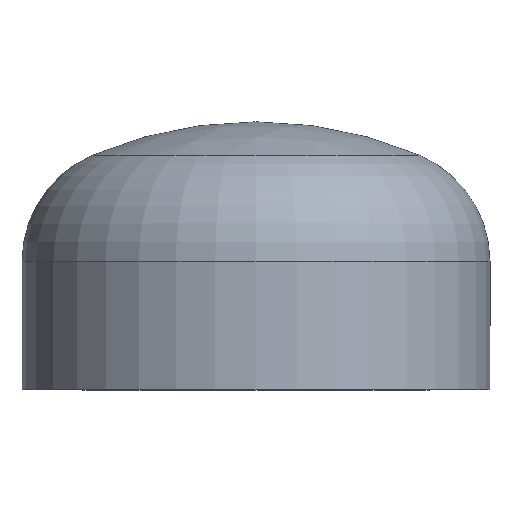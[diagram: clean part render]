
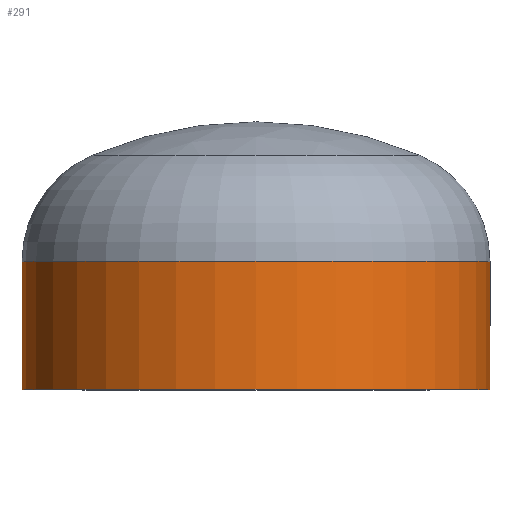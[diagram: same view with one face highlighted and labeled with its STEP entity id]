
A CAD part, top view. The second image highlights one B-rep face of the part: STEP entity #291.
In plain terms, the highlighted cylindrical face has radius 109.55 mm (diameter 219.1 mm), a partial arc.
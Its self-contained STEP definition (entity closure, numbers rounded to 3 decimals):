
#15 = VERTEX_POINT ( 'NONE', #371 ) ;
#17 = EDGE_LOOP ( 'NONE', ( #121, #133, #194, #79 ) ) ;
#22 = VECTOR ( 'NONE', #297, 1000. ) ;
#47 = LINE ( 'NONE', #376, #296 ) ;
#48 = AXIS2_PLACEMENT_3D ( 'NONE', #246, #269, #267 ) ;
#50 = VERTEX_POINT ( 'NONE', #233 ) ;
#79 = ORIENTED_EDGE ( 'NONE', *, *, #138, .F. ) ;
#83 = AXIS2_PLACEMENT_3D ( 'NONE', #197, #211, #203 ) ;
#97 = AXIS2_PLACEMENT_3D ( 'NONE', #380, #302, #300 ) ;
#113 = CARTESIAN_POINT ( 'NONE',  ( 109.55, 60., 0. ) ) ;
#117 = VERTEX_POINT ( 'NONE', #332 ) ;
#121 = ORIENTED_EDGE ( 'NONE', *, *, #137, .T. ) ;
#133 = ORIENTED_EDGE ( 'NONE', *, *, #144, .T. ) ;
#137 = EDGE_CURVE ( 'NONE', #262, #117, #244, .T. ) ;
#138 = EDGE_CURVE ( 'NONE', #262, #50, #47, .T. ) ;
#144 = EDGE_CURVE ( 'NONE', #117, #15, #370, .T. ) ;
#150 = FACE_OUTER_BOUND ( 'NONE', #17, .T. ) ;
#194 = ORIENTED_EDGE ( 'NONE', *, *, #265, .F. ) ;
#197 = CARTESIAN_POINT ( 'NONE',  ( 0., 0., 0. ) ) ;
#203 = DIRECTION ( 'NONE',  ( 1., 0., 0. ) ) ;
#211 = DIRECTION ( 'NONE',  ( 0., -1., 0. ) ) ;
#213 = CIRCLE ( 'NONE', #83, 109.55 ) ;
#233 = CARTESIAN_POINT ( 'NONE',  ( 109.55, 0., 0. ) ) ;
#244 = CIRCLE ( 'NONE', #97, 109.55 ) ;
#246 = CARTESIAN_POINT ( 'NONE',  ( 0., 0., 0. ) ) ;
#262 = VERTEX_POINT ( 'NONE', #113 ) ;
#265 = EDGE_CURVE ( 'NONE', #50, #15, #213, .T. ) ;
#267 = DIRECTION ( 'NONE',  ( 1., 0., 0. ) ) ;
#269 = DIRECTION ( 'NONE',  ( 0., -1., 0. ) ) ;
#291 = ADVANCED_FACE ( 'NONE', ( #150 ), #393, .T. ) ;
#293 = CARTESIAN_POINT ( 'NONE',  ( -109.55, 0., 0. ) ) ;
#296 = VECTOR ( 'NONE', #345, 1000. ) ;
#297 = DIRECTION ( 'NONE',  ( 0., -1., 0. ) ) ;
#300 = DIRECTION ( 'NONE',  ( 1., 0., 0. ) ) ;
#302 = DIRECTION ( 'NONE',  ( 0., -1., 0. ) ) ;
#332 = CARTESIAN_POINT ( 'NONE',  ( -109.55, 60., 0. ) ) ;
#345 = DIRECTION ( 'NONE',  ( 0., -1., 0. ) ) ;
#370 = LINE ( 'NONE', #293, #22 ) ;
#371 = CARTESIAN_POINT ( 'NONE',  ( -109.55, 0., 0. ) ) ;
#376 = CARTESIAN_POINT ( 'NONE',  ( 109.55, 0., 0. ) ) ;
#380 = CARTESIAN_POINT ( 'NONE',  ( 0., 60., 0. ) ) ;
#393 = CYLINDRICAL_SURFACE ( 'NONE', #48, 109.55 ) ;
